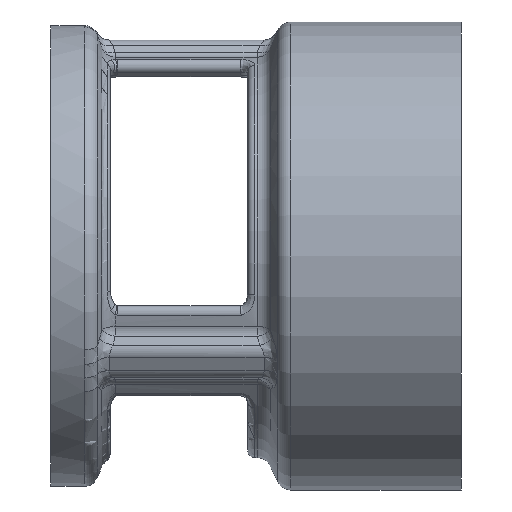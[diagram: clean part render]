
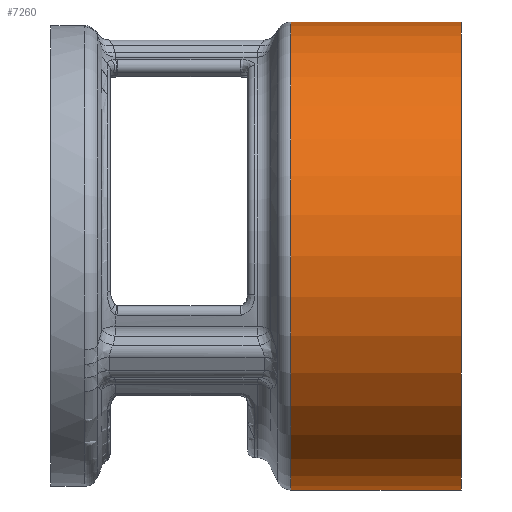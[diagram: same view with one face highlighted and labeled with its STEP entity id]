
A CAD part, left-side view. The second image highlights one B-rep face of the part: STEP entity #7260.
In plain terms, the highlighted cylindrical face has radius 32.5 mm (diameter 65 mm), a partial arc.
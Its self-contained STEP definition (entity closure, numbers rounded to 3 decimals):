
#102 = CARTESIAN_POINT ( 'NONE',  ( 0., 17.93, 0. ) ) ;
#652 = AXIS2_PLACEMENT_3D ( 'NONE', #102, #3173, #6261 ) ;
#711 = EDGE_CURVE ( 'NONE', #5490, #973, #7502, .T. ) ;
#973 = VERTEX_POINT ( 'NONE', #8383 ) ;
#1327 = DIRECTION ( 'NONE',  ( 0., -1., 0. ) ) ;
#1651 = DIRECTION ( 'NONE',  ( 0., -1., 0. ) ) ;
#1867 = CYLINDRICAL_SURFACE ( 'NONE', #5440, 32.5 ) ;
#2006 = VECTOR ( 'NONE', #1327, 1000. ) ;
#2211 = DIRECTION ( 'NONE',  ( 0., 0., -1. ) ) ;
#2392 = VERTEX_POINT ( 'NONE', #7479 ) ;
#2670 = VERTEX_POINT ( 'NONE', #9590 ) ;
#3007 = VECTOR ( 'NONE', #1651, 1000. ) ;
#3173 = DIRECTION ( 'NONE',  ( 0., -1., 0. ) ) ;
#3441 = EDGE_CURVE ( 'NONE', #2670, #2392, #7116, .T. ) ;
#3880 = ORIENTED_EDGE ( 'NONE', *, *, #5458, .T. ) ;
#3987 = CARTESIAN_POINT ( 'NONE',  ( 0., 17.93, 32.5 ) ) ;
#4203 = DIRECTION ( 'NONE',  ( 0., -1., 0. ) ) ;
#4418 = CARTESIAN_POINT ( 'NONE',  ( 0., 0., 32.5 ) ) ;
#4742 = CARTESIAN_POINT ( 'NONE',  ( 0., 0., -32.5 ) ) ;
#4967 = CARTESIAN_POINT ( 'NONE',  ( 0., 0., 0. ) ) ;
#5375 = EDGE_CURVE ( 'NONE', #973, #2392, #7621, .T. ) ;
#5402 = ORIENTED_EDGE ( 'NONE', *, *, #3441, .T. ) ;
#5440 = AXIS2_PLACEMENT_3D ( 'NONE', #4967, #4203, #7277 ) ;
#5458 = EDGE_CURVE ( 'NONE', #5490, #2670, #7588, .T. ) ;
#5490 = VERTEX_POINT ( 'NONE', #3987 ) ;
#5724 = FACE_OUTER_BOUND ( 'NONE', #6799, .T. ) ;
#6105 = ORIENTED_EDGE ( 'NONE', *, *, #5375, .F. ) ;
#6261 = DIRECTION ( 'NONE',  ( 0., 0., -1. ) ) ;
#6324 = AXIS2_PLACEMENT_3D ( 'NONE', #8331, #9147, #2211 ) ;
#6799 = EDGE_LOOP ( 'NONE', ( #7008, #3880, #5402, #6105 ) ) ;
#7008 = ORIENTED_EDGE ( 'NONE', *, *, #711, .F. ) ;
#7116 = LINE ( 'NONE', #4742, #3007 ) ;
#7260 = ADVANCED_FACE ( 'NONE', ( #5724 ), #1867, .T. ) ;
#7277 = DIRECTION ( 'NONE',  ( 0., 0., -1. ) ) ;
#7479 = CARTESIAN_POINT ( 'NONE',  ( 0., -5.74, -32.5 ) ) ;
#7502 = LINE ( 'NONE', #4418, #2006 ) ;
#7588 = CIRCLE ( 'NONE', #652, 32.5 ) ;
#7621 = CIRCLE ( 'NONE', #6324, 32.5 ) ;
#8331 = CARTESIAN_POINT ( 'NONE',  ( 0., -5.74, 0. ) ) ;
#8383 = CARTESIAN_POINT ( 'NONE',  ( 0., -5.74, 32.5 ) ) ;
#9147 = DIRECTION ( 'NONE',  ( 0., -1., 0. ) ) ;
#9590 = CARTESIAN_POINT ( 'NONE',  ( 0., 17.93, -32.5 ) ) ;
